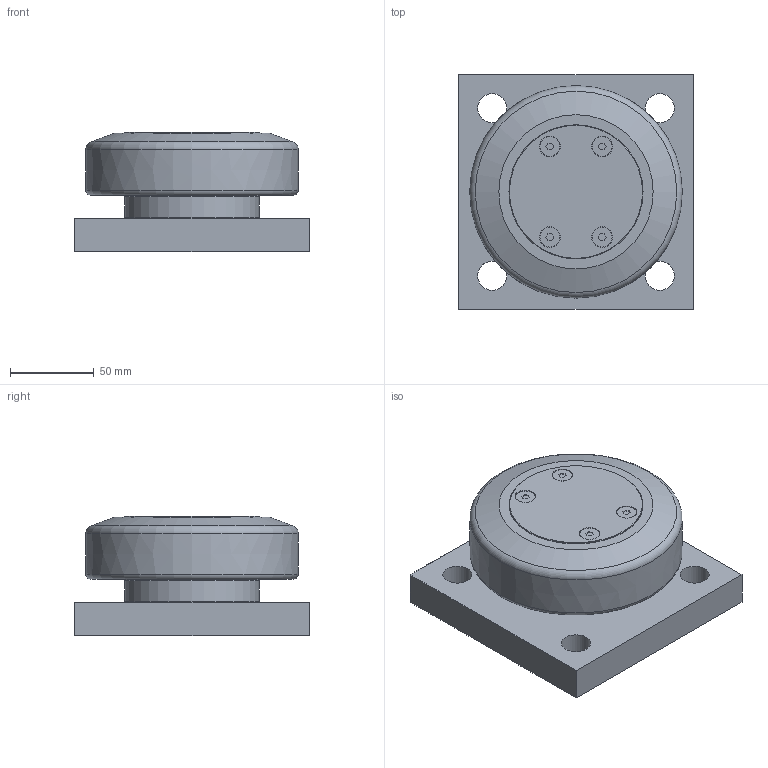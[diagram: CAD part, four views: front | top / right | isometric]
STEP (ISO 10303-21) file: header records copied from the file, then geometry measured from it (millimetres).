
FILE_DESCRIPTION(/* description */ ('-','CAx-IF Rec.Pracs.---Representation and Presentation of Product Manufacturing Information (PMI)---4.0---2014-10-13'),/* implementation_level */ '2;1');
FILE_NAME(/* name */ 'c:\temp\b899d617-3b5c-4173-b4fe-47f98787ae0a\45e3e9b4-5dea-4f4d-b70b-e37fa35a285d.stp',/* time_stamp */ '2020-04-01T16:51:20+02:00',/* author */ ('-'),/* organization */ ('NTI CADcenter A/S'),/* preprocessor_version */ 'ST-DEVELOPER v18',/* originating_system */ 'Autodesk Inventor 2020',/* authorisation */ '-');
FILE_SCHEMA (('AP242_MANAGED_MODEL_BASED_3D_ENGINEERING_MIM_LF { 1 0 10303 442 1 1 4 }'));
Length unit declared in the file: millimetre
Products named in the file (1): XTR 120.0400 BQ1000_Kontur
Bounding box: 140 x 140 x 71.5 mm (x, y, z)
Volume: 891042.2 mm3; surface area: 83881.1 mm2
Topology: 1 solids, 1 shells, 68 faces, 162 edges, 112 vertices
Faces by surface type: plane 46, cylinder 15, cone 4, torus 2, bspline 1
Full cylindrical faces by diameter (mm): 11.7 x4, 12.4 x4, 17.294 x4, 80 x3
Entity records: 2080 total; most frequent: CARTESIAN_POINT 369, DIRECTION 357, ORIENTED_EDGE 324, EDGE_CURVE 162, AXIS2_PLACEMENT_3D 127, VERTEX_POINT 112, LINE 103, VECTOR 103
